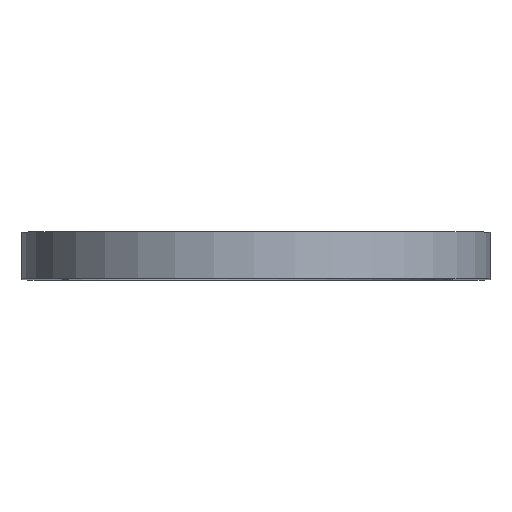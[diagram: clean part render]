
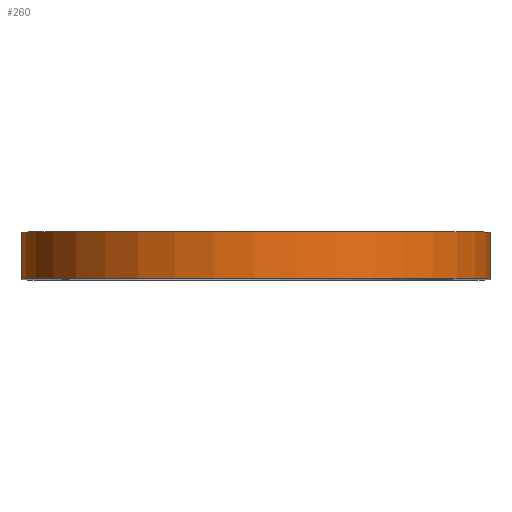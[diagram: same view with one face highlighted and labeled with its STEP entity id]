
A CAD part, top view. The second image highlights one B-rep face of the part: STEP entity #260.
In plain terms, the highlighted cylindrical face has radius 50.206 mm (diameter 100.412 mm), a partial arc.
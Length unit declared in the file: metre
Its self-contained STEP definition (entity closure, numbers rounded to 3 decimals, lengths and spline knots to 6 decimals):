
#22=CIRCLE('',#293,0.050206);
#23=CIRCLE('',#294,0.050206);
#28=CYLINDRICAL_SURFACE('',#292,0.050206);
#50=ORIENTED_EDGE('',*,*,#118,.F.);
#51=ORIENTED_EDGE('',*,*,#119,.F.);
#52=ORIENTED_EDGE('',*,*,#120,.T.);
#53=ORIENTED_EDGE('',*,*,#115,.T.);
#115=EDGE_CURVE('',#148,#146,#171,.T.);
#118=EDGE_CURVE('',#150,#146,#22,.T.);
#119=EDGE_CURVE('',#151,#150,#174,.T.);
#120=EDGE_CURVE('',#151,#148,#23,.T.);
#146=VERTEX_POINT('',#411);
#148=VERTEX_POINT('',#414);
#150=VERTEX_POINT('',#420);
#151=VERTEX_POINT('',#422);
#171=LINE('',#413,#195);
#174=LINE('',#421,#198);
#195=VECTOR('',#337,1.);
#198=VECTOR('',#344,1.);
#215=EDGE_LOOP('',(#50,#51,#52,#53));
#233=FACE_BOUND('',#215,.T.);
#260=ADVANCED_FACE('',(#233),#28,.T.);
#292=AXIS2_PLACEMENT_3D('',#418,#340,#341);
#293=AXIS2_PLACEMENT_3D('',#419,#342,#343);
#294=AXIS2_PLACEMENT_3D('',#423,#345,#346);
#337=DIRECTION('',(0.,1.,0.));
#340=DIRECTION('',(0.,1.,0.));
#341=DIRECTION('',(0.,0.,1.));
#342=DIRECTION('',(0.,1.,0.));
#343=DIRECTION('',(-1.,0.,0.));
#344=DIRECTION('',(0.,1.,0.));
#345=DIRECTION('',(0.,1.,0.));
#346=DIRECTION('',(-1.,0.,0.));
#411=CARTESIAN_POINT('',(-0.02566,0.02,0.061939));
#413=CARTESIAN_POINT('',(-0.02566,0.01,0.061939));
#414=CARTESIAN_POINT('',(-0.02566,0.01,0.061939));
#418=CARTESIAN_POINT('',(-0.075859,0.01,0.061113));
#419=CARTESIAN_POINT('',(-0.075859,0.02,0.061113));
#420=CARTESIAN_POINT('',(-0.126065,0.02,0.061113));
#421=CARTESIAN_POINT('',(-0.126065,0.01,0.061113));
#422=CARTESIAN_POINT('',(-0.126065,0.01,0.061113));
#423=CARTESIAN_POINT('',(-0.075859,0.01,0.061113));
